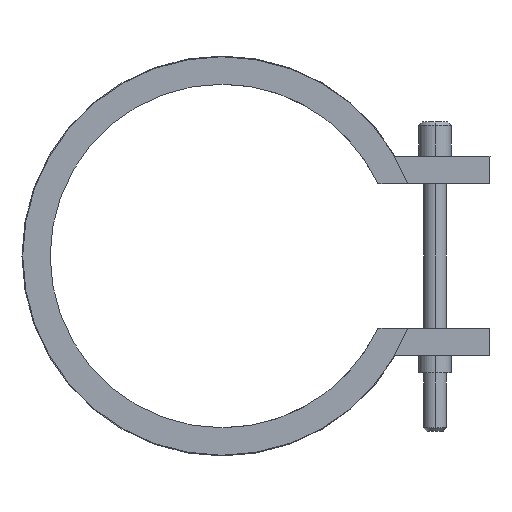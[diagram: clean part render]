
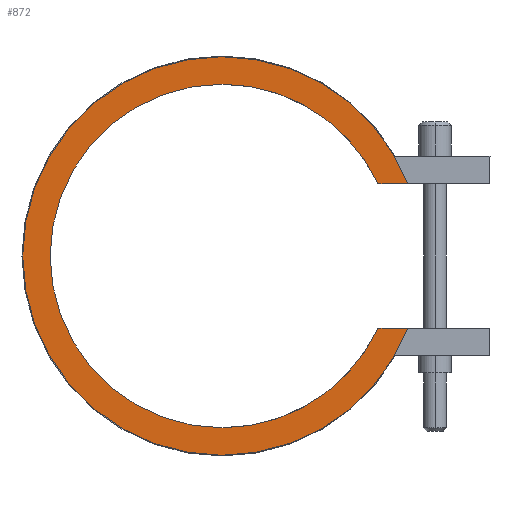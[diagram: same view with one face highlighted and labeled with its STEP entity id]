
A CAD part, left-side view. The second image highlights one B-rep face of the part: STEP entity #872.
In plain terms, the highlighted planar face has unit normal (-1, 0, 0).
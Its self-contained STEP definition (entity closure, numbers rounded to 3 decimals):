
#410=CARTESIAN_POINT('Vertex',(-20.,-22.688,-10.5)) ;
#413=CARTESIAN_POINT('Line Origine',(-20.,-24.86,-10.5)) ;
#417=CARTESIAN_POINT('Vertex',(-20.,-27.032,-10.5)) ;
#463=CARTESIAN_POINT('Vertex',(-20.,0.,-29.)) ;
#466=CARTESIAN_POINT('Axis2P3D Location',(-20.,0.,0.)) ;
#487=CARTESIAN_POINT('Vertex',(-20.,0.,29.)) ;
#490=CARTESIAN_POINT('Axis2P3D Location',(-20.,0.,0.)) ;
#502=CARTESIAN_POINT('Axis2P3D Location',(-20.,0.,0.)) ;
#506=CARTESIAN_POINT('Vertex',(-20.,-27.032,10.5)) ;
#526=CARTESIAN_POINT('Line Origine',(-20.,-24.86,10.5)) ;
#530=CARTESIAN_POINT('Vertex',(-20.,-22.688,10.5)) ;
#818=CARTESIAN_POINT('Axis2P3D Location',(-20.,0.,0.)) ;
#822=CARTESIAN_POINT('Vertex',(-20.,0.,-25.)) ;
#845=CARTESIAN_POINT('Axis2P3D Location',(-20.,0.,0.)) ;
#850=CARTESIAN_POINT('Axis2P3D Location',(-20.,0.,0.)) ;
#854=CARTESIAN_POINT('Vertex',(-20.,0.,25.)) ;
#857=CARTESIAN_POINT('Axis2P3D Location',(-20.,0.,0.)) ;
#414=DIRECTION('Vector Direction',(0.,1.,0.)) ;
#467=DIRECTION('Axis2P3D Direction',(1.,0.,-0.)) ;
#491=DIRECTION('Axis2P3D Direction',(1.,0.,-0.)) ;
#503=DIRECTION('Axis2P3D Direction',(1.,0.,-0.)) ;
#527=DIRECTION('Vector Direction',(0.,-1.,0.)) ;
#819=DIRECTION('Axis2P3D Direction',(1.,0.,-0.)) ;
#846=DIRECTION('Axis2P3D Direction',(1.,0.,0.)) ;
#847=DIRECTION('Axis2P3D XDirection',(0.,0.,-1.)) ;
#851=DIRECTION('Axis2P3D Direction',(1.,0.,0.)) ;
#858=DIRECTION('Axis2P3D Direction',(1.,0.,0.)) ;
#468=AXIS2_PLACEMENT_3D('Circle Axis2P3D',#466,#467,$) ;
#492=AXIS2_PLACEMENT_3D('Circle Axis2P3D',#490,#491,$) ;
#504=AXIS2_PLACEMENT_3D('Circle Axis2P3D',#502,#503,$) ;
#820=AXIS2_PLACEMENT_3D('Circle Axis2P3D',#818,#819,$) ;
#848=AXIS2_PLACEMENT_3D('Plane Axis2P3D',#845,#846,#847) ;
#852=AXIS2_PLACEMENT_3D('Circle Axis2P3D',#850,#851,$) ;
#859=AXIS2_PLACEMENT_3D('Circle Axis2P3D',#857,#858,$) ;
#863=ORIENTED_EDGE('',*,*,#419,.T.) ;
#864=ORIENTED_EDGE('',*,*,#824,.T.) ;
#865=ORIENTED_EDGE('',*,*,#856,.T.) ;
#866=ORIENTED_EDGE('',*,*,#861,.T.) ;
#867=ORIENTED_EDGE('',*,*,#532,.T.) ;
#868=ORIENTED_EDGE('',*,*,#508,.F.) ;
#869=ORIENTED_EDGE('',*,*,#494,.F.) ;
#870=ORIENTED_EDGE('',*,*,#470,.F.) ;
#415=VECTOR('Line Direction',#414,1.) ;
#528=VECTOR('Line Direction',#527,1.) ;
#872=ADVANCED_FACE('14050040',(#871),#849,.F.) ;
#469=CIRCLE('generated circle',#468,29.) ;
#493=CIRCLE('generated circle',#492,29.) ;
#505=CIRCLE('generated circle',#504,29.) ;
#821=CIRCLE('generated circle',#820,25.) ;
#853=CIRCLE('generated circle',#852,25.) ;
#860=CIRCLE('generated circle',#859,25.) ;
#419=EDGE_CURVE('',#418,#411,#416,.T.) ;
#470=EDGE_CURVE('',#418,#464,#469,.T.) ;
#494=EDGE_CURVE('',#464,#488,#493,.T.) ;
#508=EDGE_CURVE('',#488,#507,#505,.T.) ;
#532=EDGE_CURVE('',#531,#507,#529,.T.) ;
#824=EDGE_CURVE('',#411,#823,#821,.T.) ;
#856=EDGE_CURVE('',#823,#855,#853,.T.) ;
#861=EDGE_CURVE('',#855,#531,#860,.T.) ;
#862=EDGE_LOOP('',(#863,#864,#865,#866,#867,#868,#869,#870)) ;
#871=FACE_OUTER_BOUND('',#862,.T.) ;
#416=LINE('Line',#413,#415) ;
#529=LINE('Line',#526,#528) ;
#849=PLANE('Plane',#848) ;
#411=VERTEX_POINT('',#410) ;
#418=VERTEX_POINT('',#417) ;
#464=VERTEX_POINT('',#463) ;
#488=VERTEX_POINT('',#487) ;
#507=VERTEX_POINT('',#506) ;
#531=VERTEX_POINT('',#530) ;
#823=VERTEX_POINT('',#822) ;
#855=VERTEX_POINT('',#854) ;
